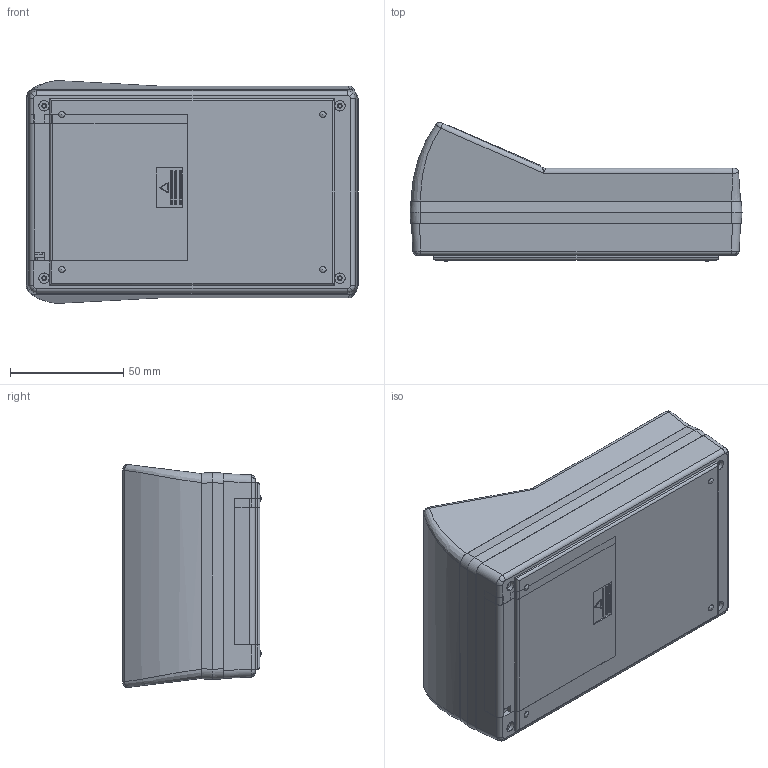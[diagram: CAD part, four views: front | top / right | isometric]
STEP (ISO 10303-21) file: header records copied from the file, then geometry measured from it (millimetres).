
FILE_DESCRIPTION (( 'STEP AP214' ), '1' );
FILE_NAME ('90-52-29V-E-R.STEP', '2020-10-15T16:19:46', ( 'Rudy' ), ( '' ), 'SwSTEP 2.0', 'SolidWorks 2014', '' );
FILE_SCHEMA (( 'AUTOMOTIVE_DESIGN' ));
Length unit declared in the file: millimetre
Products named in the file (7): Top Angled LCD; 90 Angle LCD expander; 90-29V Shallow; 90-52-29V-E-R; 90 PCB 29V-4AA; 29V door; 90-bessel
Assembly tree (6 placements, depth 2):
  90-52-29V-E-R
    90-29V Shallow
    90 Angle LCD expander
    Top Angled LCD
    90-bessel
    29V door
    90 PCB 29V-4AA
Bounding box: 146.8 x 61.32 x 98.54 mm (x, y, z)
Volume: 151643.6 mm3; surface area: 136118.4 mm2
Topology: 6 solids, 6 shells, 748 faces, 1991 edges, 1285 vertices
Faces by surface type: plane 462, cylinder 180, cone 52, torus 24, bspline 20, sphere 10
Entity records: 24365 total; most frequent: CARTESIAN_POINT 5470, ORIENTED_EDGE 3942, DIRECTION 3770, EDGE_CURVE 1971, VECTOR 1388, LINE 1388, VERTEX_POINT 1277, AXIS2_PLACEMENT_3D 1191
